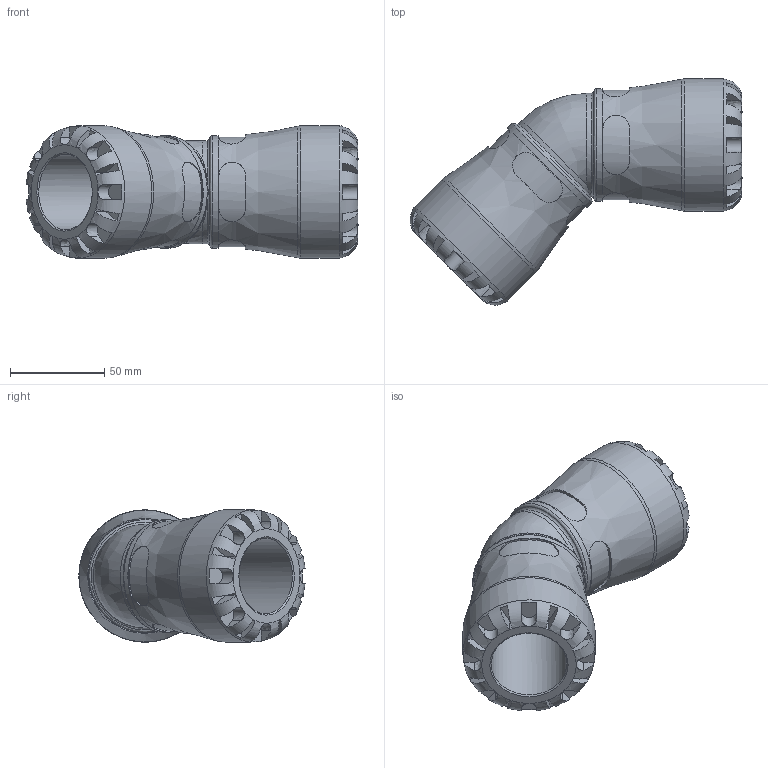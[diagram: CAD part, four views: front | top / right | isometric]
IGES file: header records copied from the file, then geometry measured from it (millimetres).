
Global section: file name: 150600040; native system: Autodesk Inventor 2019; preprocessor: unknown; author: KIM; date: 20231017.193655; units: millimetre
Bounding box: 175.77 x 119.77 x 70 mm (x, y, z)
Volume: 352452.8 mm3; surface area: 67520.9 mm2
Topology: 1 solids, 1 shells, 196 faces, 524 edges, 336 vertices
Faces by surface type: bspline 196
